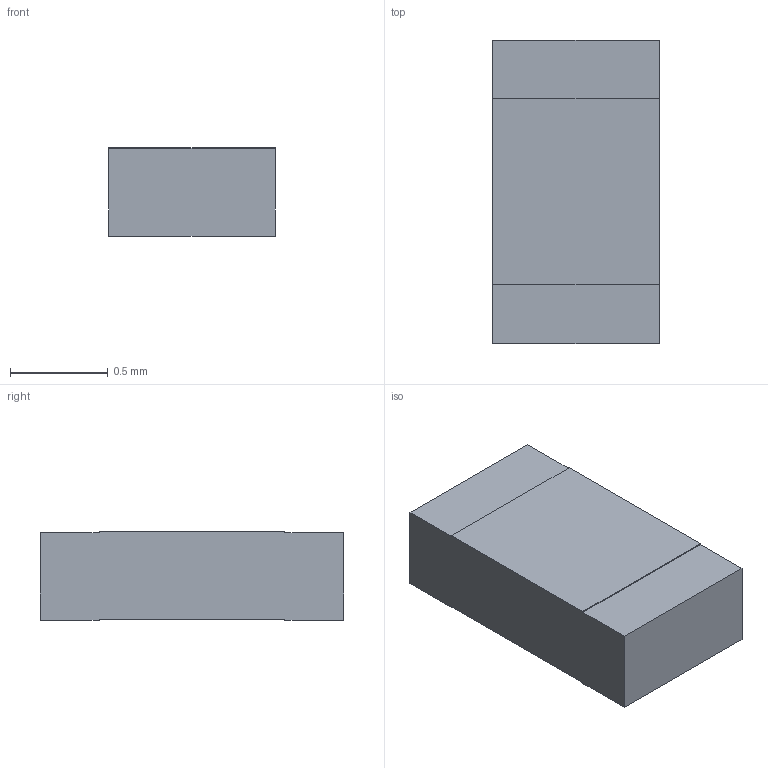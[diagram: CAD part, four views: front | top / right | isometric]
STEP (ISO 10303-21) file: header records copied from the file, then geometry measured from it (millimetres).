
FILE_DESCRIPTION(/* description */ (''),/* implementation_level */ '2;1');
FILE_NAME(/* name */ '\\wsse03\home\msaalfrank\Konstruktion\tknuschke\0603.stp',/* time_stamp */ '2020-11-09T12:41:58+01:00',/* author */ ('msaalfrank'),/* organization */ (''),/* preprocessor_version */ 'ST-DEVELOPER v16.5',/* originating_system */ 'Autodesk Inventor 2017',/* authorisation */ '');
FILE_SCHEMA (('AUTOMOTIVE_DESIGN { 1 0 10303 214 3 1 1 }'));
Length unit declared in the file: millimetre
Products named in the file (1): 0603
Bounding box: 0.85 x 1.55 x 0.45 mm (x, y, z)
Volume: 0.6 mm3; surface area: 4.8 mm2
Topology: 1 solids, 1 shells, 14 faces, 36 edges, 24 vertices
Faces by surface type: plane 14
Entity records: 481 total; most frequent: CARTESIAN_POINT 75, ORIENTED_EDGE 72, DIRECTION 66, LINE 36, VECTOR 36, EDGE_CURVE 36, VERTEX_POINT 24, AXIS2_PLACEMENT_3D 15
